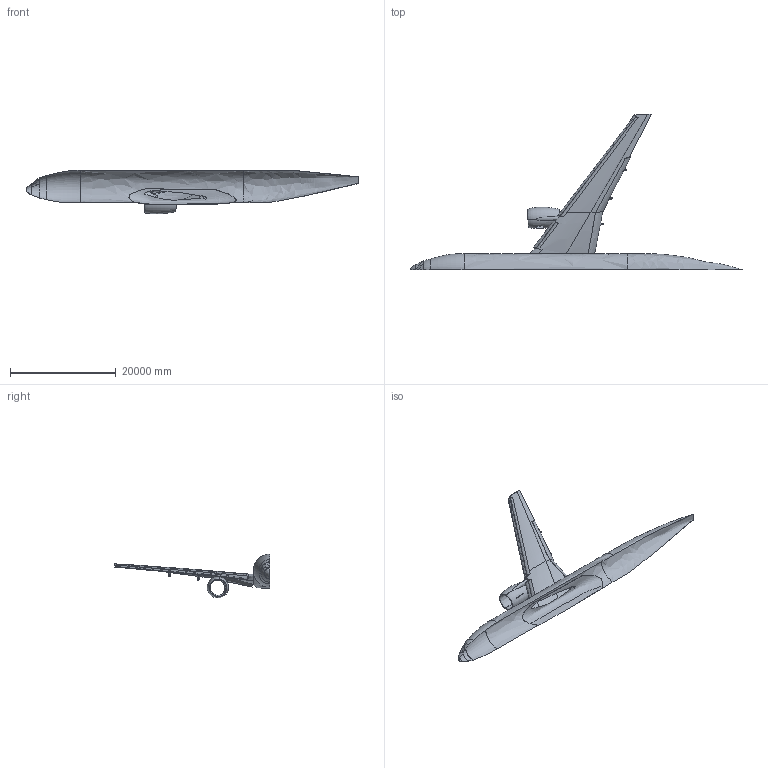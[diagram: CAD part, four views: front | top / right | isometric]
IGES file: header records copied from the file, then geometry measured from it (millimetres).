
Start section: START RECORD GO HERE.
Global section: file name: NTF5p2_CRMHL_LDG_V02.igs; native system: DASSAULT SYSTEMES CATIA Version 5-6 Release 2021 - www.3ds.com; preprocessor: V5-6R2021_5.31.3.11.10-20-2021.17.45; author: ww962c; organization: NW; date: 20231117.115433; units: inch
Bounding box: 62725.3 x 29461.77 x 8245.18 mm (x, y, z)
Surface area: 1130311650.8 mm2 (no closed solid volume)
Topology: 0 solids, 0 shells, 497 faces, 3300 edges, 3297 vertices
Faces by surface type: bspline 497
